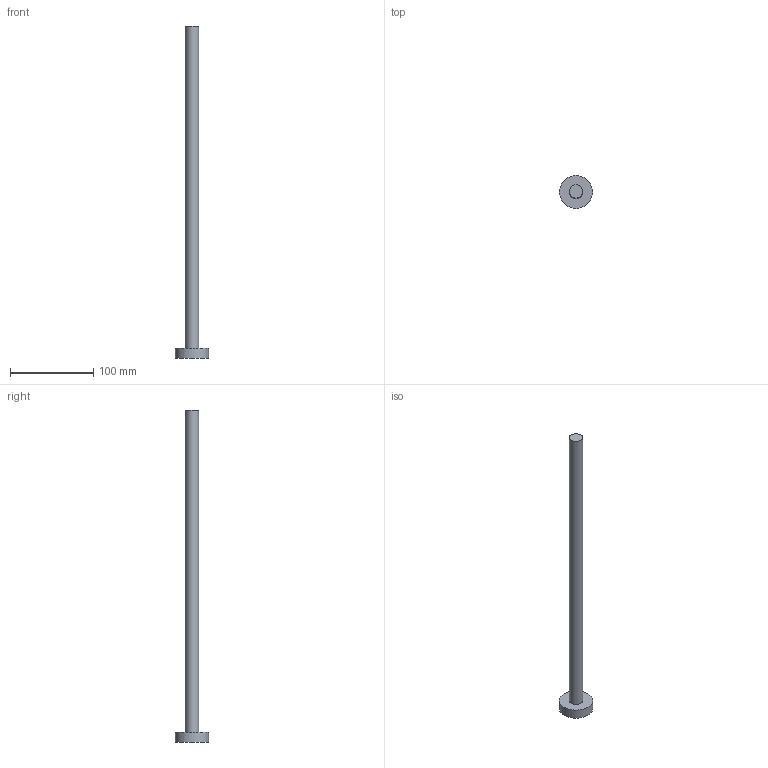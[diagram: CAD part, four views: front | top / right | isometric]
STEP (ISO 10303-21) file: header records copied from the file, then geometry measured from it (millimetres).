
FILE_DESCRIPTION(('Open CASCADE Model'),'2;1');
FILE_NAME('Open CASCADE Shape Model','2026-09-07T11:14:07',('Author'),( 'Open CASCADE'),'Open CASCADE STEP processor 7.9','Open CASCADE 7.9' ,'Unknown');
FILE_SCHEMA(('AUTOMOTIVE_DESIGN { 1 0 10303 214 1 1 1 1 }'));
Length unit declared in the file: millimetre
Products named in the file (1): Open CASCADE STEP translator 7.9 8
Bounding box: 40 x 40 x 400 mm (x, y, z)
Volume: 93091.7 mm3; surface area: 23524.2 mm2
Topology: 1 solids, 1 shells, 5 faces, 6 edges, 4 vertices
Faces by surface type: plane 3, cylinder 2
Full cylindrical faces by diameter (mm): 16 x1, 40 x1
Entity records: 195 total; most frequent: CARTESIAN_POINT 34, DIRECTION 33, ORIENTED_EDGE 12, PCURVE 12, DEFINITIONAL_REPRESENTATION 12, AXIS2_PLACEMENT_3D 10, LINE 10, VECTOR 10
